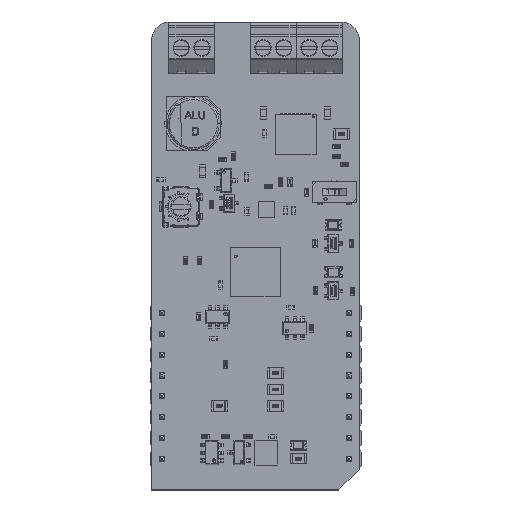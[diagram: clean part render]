
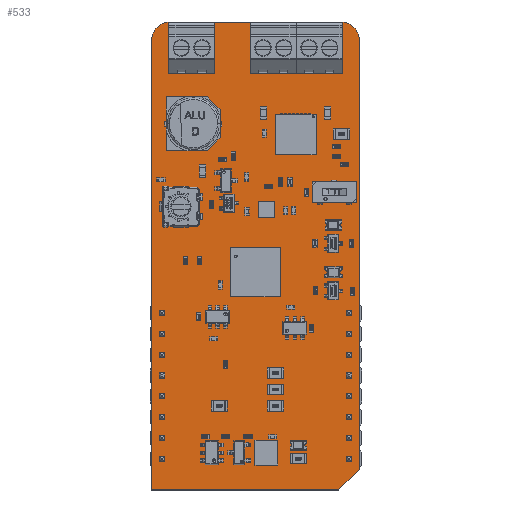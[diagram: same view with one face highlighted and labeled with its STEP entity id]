
A CAD part, top view. The second image highlights one B-rep face of the part: STEP entity #533.
In plain terms, the highlighted planar face has unit normal (0, 0, 1).
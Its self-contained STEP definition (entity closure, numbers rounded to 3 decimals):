
#304 = VERTEX_POINT('',#305);
#305 = CARTESIAN_POINT('',(-1.27,-3.81,1.59));
#311 = EDGE_CURVE('',#304,#312,#314,.T.);
#312 = VERTEX_POINT('',#313);
#313 = CARTESIAN_POINT('',(-1.27,51.054,1.59));
#314 = LINE('',#315,#316);
#315 = CARTESIAN_POINT('',(-1.27,-3.81,1.59));
#316 = VECTOR('',#317,1.);
#317 = DIRECTION('',(0.,1.,0.));
#342 = EDGE_CURVE('',#312,#343,#345,.T.);
#343 = VERTEX_POINT('',#344);
#344 = CARTESIAN_POINT('',(1.016,53.34,1.59));
#345 = CIRCLE('',#346,2.288);
#346 = AXIS2_PLACEMENT_3D('',#347,#348,#349);
#347 = CARTESIAN_POINT('',(1.018,51.052,1.59));
#348 = DIRECTION('',(0.,0.,-1.));
#349 = DIRECTION('',(-1.,0.001,0.));
#375 = EDGE_CURVE('',#343,#376,#378,.T.);
#376 = VERTEX_POINT('',#377);
#377 = CARTESIAN_POINT('',(21.844,53.34,1.59));
#378 = LINE('',#379,#380);
#379 = CARTESIAN_POINT('',(1.016,53.34,1.59));
#380 = VECTOR('',#381,1.);
#381 = DIRECTION('',(1.,0.,0.));
#406 = EDGE_CURVE('',#376,#407,#409,.T.);
#407 = VERTEX_POINT('',#408);
#408 = CARTESIAN_POINT('',(24.13,51.054,1.59));
#409 = CIRCLE('',#410,2.288);
#410 = AXIS2_PLACEMENT_3D('',#411,#412,#413);
#411 = CARTESIAN_POINT('',(21.842,51.052,1.59));
#412 = DIRECTION('',(0.,0.,-1.));
#413 = DIRECTION('',(0.001,1.,0.));
#439 = EDGE_CURVE('',#407,#440,#442,.T.);
#440 = VERTEX_POINT('',#441);
#441 = CARTESIAN_POINT('',(24.13,-1.27,1.59));
#442 = LINE('',#443,#444);
#443 = CARTESIAN_POINT('',(24.13,51.054,1.59));
#444 = VECTOR('',#445,1.);
#445 = DIRECTION('',(0.,-1.,0.));
#470 = EDGE_CURVE('',#440,#471,#473,.T.);
#471 = VERTEX_POINT('',#472);
#472 = CARTESIAN_POINT('',(21.59,-3.81,1.59));
#473 = LINE('',#474,#475);
#474 = CARTESIAN_POINT('',(24.13,-1.27,1.59));
#475 = VECTOR('',#476,1.);
#476 = DIRECTION('',(-0.707,-0.707,0.));
#501 = EDGE_CURVE('',#471,#304,#502,.T.);
#502 = LINE('',#503,#504);
#503 = CARTESIAN_POINT('',(21.59,-3.81,1.59));
#504 = VECTOR('',#505,1.);
#505 = DIRECTION('',(-1.,0.,0.));
#533 = ADVANCED_FACE('',(#534),#543,.F.);
#534 = FACE_BOUND('',#535,.F.);
#535 = EDGE_LOOP('',(#536,#537,#538,#539,#540,#541,#542));
#536 = ORIENTED_EDGE('',*,*,#311,.T.);
#537 = ORIENTED_EDGE('',*,*,#342,.T.);
#538 = ORIENTED_EDGE('',*,*,#375,.T.);
#539 = ORIENTED_EDGE('',*,*,#406,.T.);
#540 = ORIENTED_EDGE('',*,*,#439,.T.);
#541 = ORIENTED_EDGE('',*,*,#470,.T.);
#542 = ORIENTED_EDGE('',*,*,#501,.T.);
#543 = PLANE('',#544);
#544 = AXIS2_PLACEMENT_3D('',#545,#546,#547);
#545 = CARTESIAN_POINT('',(11.305,24.669,1.59));
#546 = DIRECTION('',(-0.,-0.,-1.));
#547 = DIRECTION('',(-1.,0.,0.));
